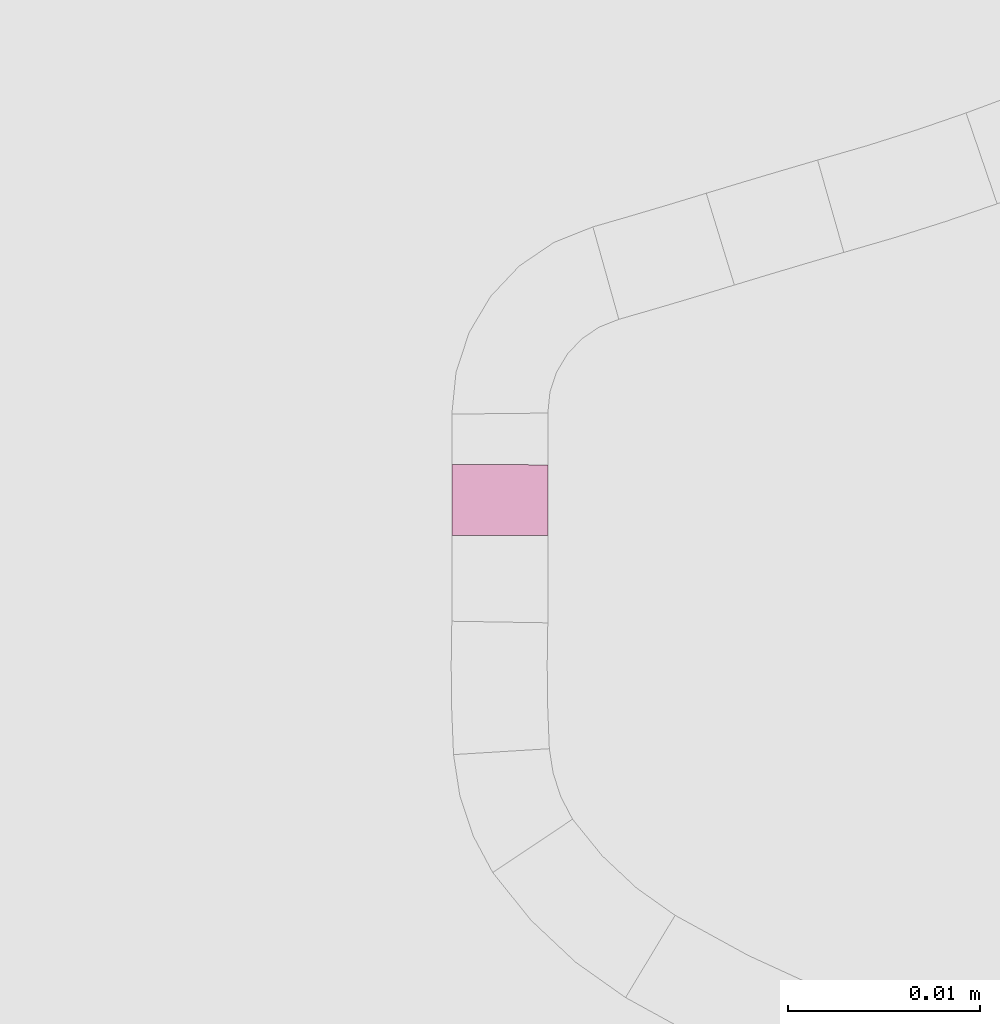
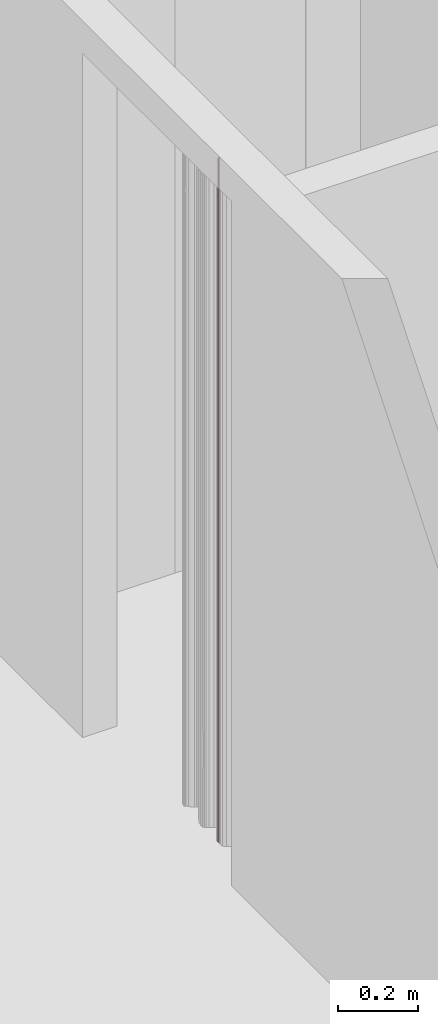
# One storey, part 230 of 418: 1 furnishing.
"""IFC2X3 building model written with IfcOpenShell, lengths in millimetres."""

from ifc_helpers import new_model, entity, si_unit, converted_unit, derived_unit, money_unit, direction, frame, origin_with_axes, place, context, subcontext, project, spatial, polyline, outline, extrude, material, type_object, element, save


model = new_model("IFC2X3")

# Units and contexts
model_context = context("Model", 3, precision=0.01, world=origin_with_axes(), true_north=direction((0.0, 1.0)))
body_context = subcontext(model_context, "Body", "Model", "MODEL_VIEW")
ifc_project = project(units=[si_unit("LENGTHUNIT", "METRE", prefix="MILLI"), si_unit("AREAUNIT", "SQUARE_METRE"), si_unit("VOLUMEUNIT", "CUBIC_METRE"), converted_unit("PLANEANGLEUNIT", "DEGREE", entity("IfcPlaneAngleMeasure", 0.0174532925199), si_unit("PLANEANGLEUNIT", "RADIAN"), dimensions=[0, 0, 0, 0, 0, 0, 0]), si_unit("SOLIDANGLEUNIT", "STERADIAN"), money_unit("EUR"), converted_unit("TIMEUNIT", "Year", entity("IfcTimeMeasure", 31556926.0), si_unit("TIMEUNIT", "SECOND"), dimensions=[0, 0, 1, 0, 0, 0, 0]), si_unit("MASSUNIT", "GRAM", prefix="KILO"), si_unit("THERMODYNAMICTEMPERATUREUNIT", "DEGREE_CELSIUS"), si_unit("LUMINOUSINTENSITYUNIT", "LUMEN"), si_unit("ENERGYUNIT", "JOULE", prefix="MEGA"), derived_unit("THERMALCONDUCTANCEUNIT", [(si_unit("POWERUNIT", "WATT"), 1), (si_unit("LENGTHUNIT", "METRE"), -1), (si_unit("THERMODYNAMICTEMPERATUREUNIT", "KELVIN"), -1)]), derived_unit("SPECIFICHEATCAPACITYUNIT", [(si_unit("ENERGYUNIT", "JOULE"), 1), (si_unit("MASSUNIT", "GRAM", prefix="KILO"), -1), (si_unit("THERMODYNAMICTEMPERATUREUNIT", "KELVIN"), -1)]), derived_unit("MASSDENSITYUNIT", [(si_unit("MASSUNIT", "GRAM", prefix="KILO"), 1), (si_unit("VOLUMEUNIT", "CUBIC_METRE"), -1)])], contexts=[model_context])

# Site, building, storey
site_placement = place(None, origin_with_axes())
site = spatial("IfcSite", under=ifc_project, at=site_placement, Name="Paldiski mnt 245/1, Tallinn, Harjumaa", CompositionType="COMPLEX")
building_placement = place(site_placement, origin_with_axes())
building = spatial("IfcBuilding", under=site, at=building_placement, Name="RKAS Hoone üldnimetus (kasutust iseloomustav) -> IFC Project Manager -> SOLIBRI", CompositionType="ELEMENT")
storey_placement = place(building_placement, origin_with_axes())
storey = spatial("IfcBuildingStorey", under=building, at=storey_placement, Name="Esimene korrus", CompositionType="ELEMENT", Elevation=0.0)

# Furnishing
ifc_material = material(Name="KON-00_GENEERILINE - KONSTRUKTSIOON")
furniture_type = type_object("IfcFurnitureType", Name="KON-00_GENEERILINE - KONSTRUKTSIOON 5", AssemblyPlace="NOTDEFINED")
furnishing_placement = place(storey_placement, frame((-45056.670174, -1184.74840551, 0.0), z_axis=(0.0, 0.0, 1.0), x_axis=(0.000574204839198, -0.999999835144, 0.0)))
element("IfcFurnishingElement", 1, at=furnishing_placement, inside=storey, type_object=furniture_type, material=ifc_material, Name="SS-11", context=body_context, shape_type="SweptSolid", body=[
    extrude(outline(polyline([(4.06119582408e-10, 0.0), (3.69540196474, 0.0), (3.69524454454, 5.0), (0.0175907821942, 5.0), (4.06119582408e-10, 0.0)])), origin_with_axes(), (0.0, 0.0, 1.0), 2100.0),
])

save(model, "model.ifc")
